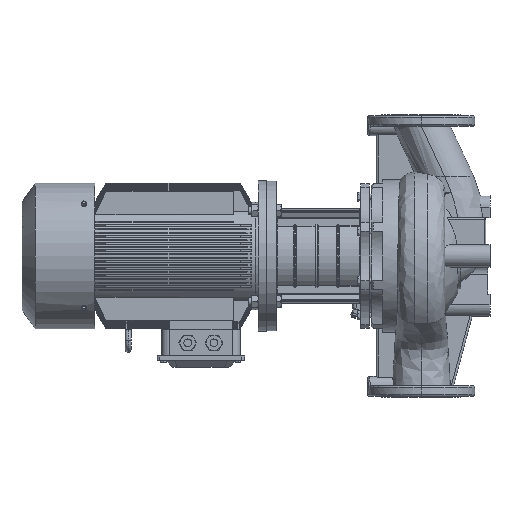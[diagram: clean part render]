
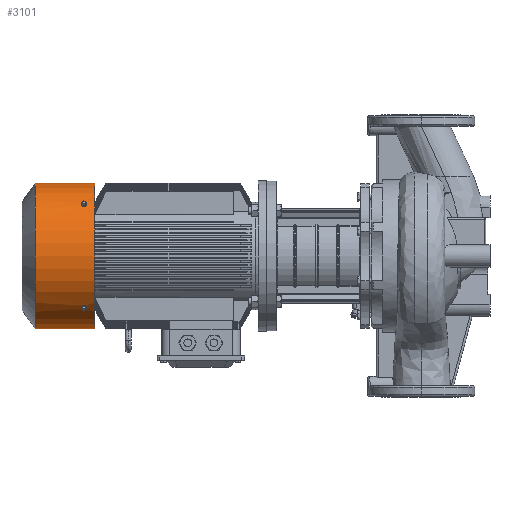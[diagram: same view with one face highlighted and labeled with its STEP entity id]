
A CAD part, left-side view. The second image highlights one B-rep face of the part: STEP entity #3101.
In plain terms, the highlighted cylindrical face has radius 170 mm (diameter 340 mm), a partial arc.
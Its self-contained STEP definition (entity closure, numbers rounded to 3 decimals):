
#338=FACE_BOUND('',#7026,.T.);
#339=FACE_BOUND('',#7027,.T.);
#340=FACE_BOUND('',#7028,.T.);
#840=CYLINDRICAL_SURFACE('',#28241,170.);
#1935=B_SPLINE_CURVE_WITH_KNOTS('',3,(#50118,#50119,#50120,#50121,#50122,
#50123,#50124,#50125,#50126,#50127),.UNSPECIFIED.,.F.,.F.,(4,2,2,2,4),(0.,
0.25,0.5,0.75,1.),.UNSPECIFIED.);
#1938=B_SPLINE_CURVE_WITH_KNOTS('',3,(#50172,#50173,#50174,#50175,#50176,
#50177,#50178,#50179,#50180,#50181),.UNSPECIFIED.,.F.,.F.,(4,2,2,2,4),(0.,
0.25,0.5,0.75,1.),.UNSPECIFIED.);
#1939=B_SPLINE_CURVE_WITH_KNOTS('',3,(#50194,#50195,#50196,#50197,#50198,
#50199,#50200,#50201,#50202,#50203),.UNSPECIFIED.,.F.,.F.,(4,2,2,2,4),(0.,
0.25,0.5,0.75,1.),.UNSPECIFIED.);
#1940=B_SPLINE_CURVE_WITH_KNOTS('',3,(#50204,#50205,#50206,#50207,#50208,
#50209,#50210,#50211,#50212,#50213),.UNSPECIFIED.,.F.,.F.,(4,2,2,2,4),(0.,
0.25,0.5,0.75,1.),.UNSPECIFIED.);
#3101=ADVANCED_FACE('',(#338,#339,#340),#840,.T.);
#7026=EDGE_LOOP('',(#14717,#14718));
#7027=EDGE_LOOP('',(#14719,#14720));
#7028=EDGE_LOOP('',(#14721,#14722,#14723,#14724));
#9019=LINE('',#50214,#10487);
#9020=LINE('',#50218,#10488);
#10487=VECTOR('',#33673,1.);
#10488=VECTOR('',#33676,1.);
#14717=ORIENTED_EDGE('',*,*,#23469,.T.);
#14718=ORIENTED_EDGE('',*,*,#23475,.T.);
#14719=ORIENTED_EDGE('',*,*,#23457,.T.);
#14720=ORIENTED_EDGE('',*,*,#23476,.T.);
#14721=ORIENTED_EDGE('',*,*,#23473,.T.);
#14722=ORIENTED_EDGE('',*,*,#23477,.F.);
#14723=ORIENTED_EDGE('',*,*,#23478,.F.);
#14724=ORIENTED_EDGE('',*,*,#23479,.T.);
#20401=VERTEX_POINT('',#50117);
#20402=VERTEX_POINT('',#50128);
#20413=VERTEX_POINT('',#50171);
#20414=VERTEX_POINT('',#50182);
#20417=VERTEX_POINT('',#50189);
#20418=VERTEX_POINT('',#50191);
#20419=VERTEX_POINT('',#50215);
#20420=VERTEX_POINT('',#50217);
#23457=EDGE_CURVE('',#20402,#20401,#1935,.T.);
#23469=EDGE_CURVE('',#20414,#20413,#1938,.T.);
#23473=EDGE_CURVE('',#20418,#20417,#26080,.T.);
#23475=EDGE_CURVE('',#20413,#20414,#1939,.T.);
#23476=EDGE_CURVE('',#20401,#20402,#1940,.T.);
#23477=EDGE_CURVE('',#20419,#20417,#9019,.T.);
#23478=EDGE_CURVE('',#20420,#20419,#26081,.T.);
#23479=EDGE_CURVE('',#20420,#20418,#9020,.T.);
#26080=CIRCLE('',#28238,170.);
#26081=CIRCLE('',#28240,170.);
#28238=AXIS2_PLACEMENT_3D('',#50190,#33668,#33669);
#28240=AXIS2_PLACEMENT_3D('',#50216,#33674,#33675);
#28241=AXIS2_PLACEMENT_3D('',#50219,#33677,#33678);
#33668=DIRECTION('',(0.,-1.,0.));
#33669=DIRECTION('',(0.,0.,1.));
#33673=DIRECTION('',(0.,1.,0.));
#33674=DIRECTION('',(0.,-1.,0.));
#33675=DIRECTION('',(0.,0.,1.));
#33676=DIRECTION('',(0.,1.,0.));
#33677=DIRECTION('',(0.,-1.,0.));
#33678=DIRECTION('',(0.,0.,-1.));
#50117=CARTESIAN_POINT('',(-124.92,787.,115.304));
#50118=CARTESIAN_POINT('',(-115.304,787.,124.92));
#50119=CARTESIAN_POINT('',(-115.304,785.203,124.92));
#50120=CARTESIAN_POINT('',(-115.848,783.446,124.422));
#50121=CARTESIAN_POINT('',(-117.672,780.937,122.698));
#50122=CARTESIAN_POINT('',(-118.951,780.201,121.466));
#50123=CARTESIAN_POINT('',(-121.459,780.199,118.957));
#50124=CARTESIAN_POINT('',(-122.685,780.92,117.686));
#50125=CARTESIAN_POINT('',(-124.43,783.457,115.839));
#50126=CARTESIAN_POINT('',(-124.92,785.203,115.304));
#50127=CARTESIAN_POINT('',(-124.92,787.,115.304));
#50128=CARTESIAN_POINT('',(-115.304,787.,124.92));
#50171=CARTESIAN_POINT('',(-115.304,787.,-124.92));
#50172=CARTESIAN_POINT('',(-124.92,787.,-115.304));
#50173=CARTESIAN_POINT('',(-124.92,785.203,-115.304));
#50174=CARTESIAN_POINT('',(-124.422,783.446,-115.848));
#50175=CARTESIAN_POINT('',(-122.698,780.937,-117.672));
#50176=CARTESIAN_POINT('',(-121.466,780.201,-118.951));
#50177=CARTESIAN_POINT('',(-118.957,780.199,-121.459));
#50178=CARTESIAN_POINT('',(-117.686,780.92,-122.685));
#50179=CARTESIAN_POINT('',(-115.839,783.457,-124.43));
#50180=CARTESIAN_POINT('',(-115.304,785.203,-124.92));
#50181=CARTESIAN_POINT('',(-115.304,787.,-124.92));
#50182=CARTESIAN_POINT('',(-124.92,787.,-115.304));
#50189=CARTESIAN_POINT('',(0.,900.551,-170.));
#50190=CARTESIAN_POINT('',(0.,900.551,0.));
#50191=CARTESIAN_POINT('',(0.,900.551,170.));
#50194=CARTESIAN_POINT('',(-115.304,787.,-124.92));
#50195=CARTESIAN_POINT('',(-115.304,788.797,-124.92));
#50196=CARTESIAN_POINT('',(-115.848,790.554,-124.422));
#50197=CARTESIAN_POINT('',(-117.672,793.063,-122.698));
#50198=CARTESIAN_POINT('',(-118.951,793.799,-121.466));
#50199=CARTESIAN_POINT('',(-121.459,793.801,-118.957));
#50200=CARTESIAN_POINT('',(-122.685,793.08,-117.686));
#50201=CARTESIAN_POINT('',(-124.43,790.543,-115.839));
#50202=CARTESIAN_POINT('',(-124.92,788.797,-115.304));
#50203=CARTESIAN_POINT('',(-124.92,787.,-115.304));
#50204=CARTESIAN_POINT('',(-124.92,787.,115.304));
#50205=CARTESIAN_POINT('',(-124.92,788.797,115.304));
#50206=CARTESIAN_POINT('',(-124.422,790.554,115.848));
#50207=CARTESIAN_POINT('',(-122.698,793.063,117.672));
#50208=CARTESIAN_POINT('',(-121.466,793.799,118.951));
#50209=CARTESIAN_POINT('',(-118.957,793.801,121.459));
#50210=CARTESIAN_POINT('',(-117.686,793.08,122.685));
#50211=CARTESIAN_POINT('',(-115.839,790.543,124.43));
#50212=CARTESIAN_POINT('',(-115.304,788.797,124.92));
#50213=CARTESIAN_POINT('',(-115.304,787.,124.92));
#50214=CARTESIAN_POINT('',(0.,251.5,-170.));
#50215=CARTESIAN_POINT('',(0.,761.5,-170.));
#50216=CARTESIAN_POINT('',(0.,761.5,0.));
#50217=CARTESIAN_POINT('',(0.,761.5,170.));
#50218=CARTESIAN_POINT('',(0.,251.5,170.));
#50219=CARTESIAN_POINT('',(0.,251.5,0.));
